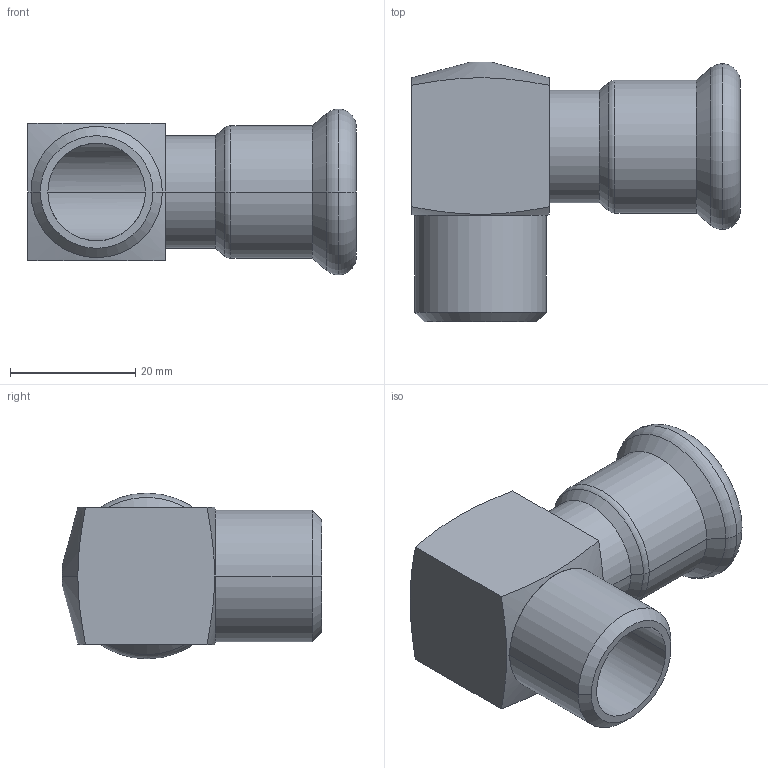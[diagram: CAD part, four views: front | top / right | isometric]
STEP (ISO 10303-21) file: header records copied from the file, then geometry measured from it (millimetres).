
FILE_DESCRIPTION(('CoCreate Modeling STEP Export'),'2;1');
FILE_NAME('C1428 18xR1-2.stp','2014-11-12T16:06:19',(''),(''),'CoCreate Modeling STEP processor for AP214 (Solid Model)','CoCreate Modeling 17.00A 17-Jun-2010 (C) Parametric Technology GmbH','');
FILE_SCHEMA(('AUTOMOTIVE_DESIGN { 1 0 10303 214 1 1 1 1 }'));
Length unit declared in the file: millimetre
Products named in the file (2): C1428_18xR1-2
Assembly tree (1 placements, depth 2):
  C1428_18xR1-2
    C1428_18xR1-2
Bounding box: 52.5 x 41.5 x 26.5 mm (x, y, z)
Volume: 12874.5 mm3; surface area: 9471.4 mm2
Topology: 1 solids, 1 shells, 40 faces, 96 edges, 62 vertices
Faces by surface type: cylinder 14, plane 10, cone 10, torus 6
Entity records: 1873 total; most frequent: CARTESIAN_POINT 990, ORIENTED_EDGE 192, DIRECTION 146, EDGE_CURVE 96, VERTEX_POINT 62, AXIS2_PLACEMENT_3D 59, EDGE_LOOP 46, FACE_OUTER_BOUND 40
